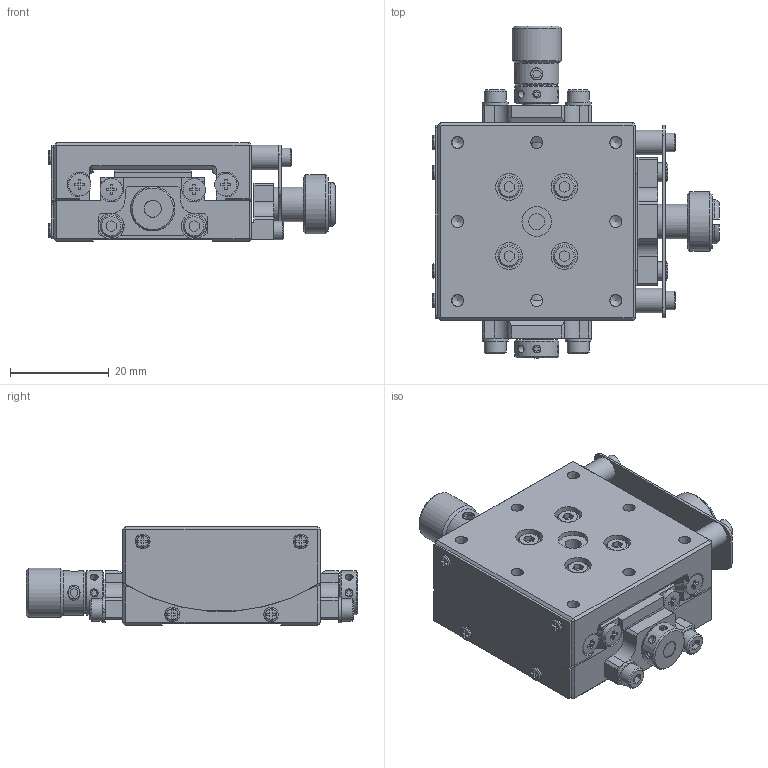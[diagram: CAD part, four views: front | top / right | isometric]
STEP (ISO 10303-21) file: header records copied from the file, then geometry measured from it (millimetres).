
FILE_DESCRIPTION((''),'2;1');
FILE_NAME('S:\1規格品図面ﾃﾞｰﾀ\OpticalHard\01_国内製品\1_Stags\GOHT\40\GOHT-40A20R\GOHT-40A20R.stp','2007-09-06T18:00:52',('okegawa'),(''),'Autodesk Inventor 11','Autodesk Inventor 11','');
FILE_SCHEMA(('AUTOMOTIVE_DESIGN { 1 0 10303 214 1 1 1 1 }'));
Length unit declared in the file: millimetre
Products named in the file (3): GOHT40A20R-M02-06001-S11; GOHT40A20R-M02-06001-S09; GOHT40A20R-M02-06001-S10
Assembly tree (2 placements, depth 2):
  GOHT40A20R-M02-06001-S11
    GOHT40A20R-M02-06001-S09
    GOHT40A20R-M02-06001-S10
Bounding box: 58.1 x 67.2 x 20 mm (x, y, z)
Volume: 30003.2 mm3; surface area: 19702.4 mm2
Topology: 48 solids, 64 shells, 1068 faces, 2628 edges, 1706 vertices
Faces by surface type: plane 619, bspline 171, cylinder 164, cone 68, sphere 26, torus 20
Full cylindrical faces by diameter (mm): 1.5 x8, 1.567 x4, 2 x9, 2.459 x2, 2.5 x8, 3 x2, 3.5 x4, 3.8 x4, 4 x5, 4.2 x1, 4.5 x16, 5 x2, 5.28 x4, 5.4 x1, 5.8 x3, 6 x6, 6.72 x4, 7 x2, 9 x3, 10 x1, 12 x1
Entity records: 33663 total; most frequent: CARTESIAN_POINT 10972, DIRECTION 4518, ORIENTED_EDGE 4258, EDGE_CURVE 2129, AXIS2_PLACEMENT_3D 1640, VERTEX_POINT 1538, EDGE_LOOP 1515, VECTOR 1238
